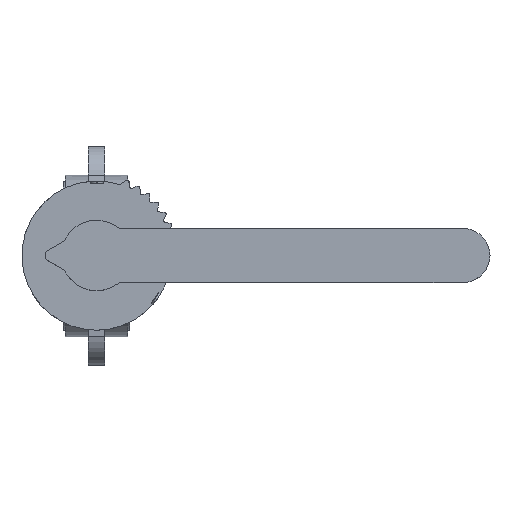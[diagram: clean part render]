
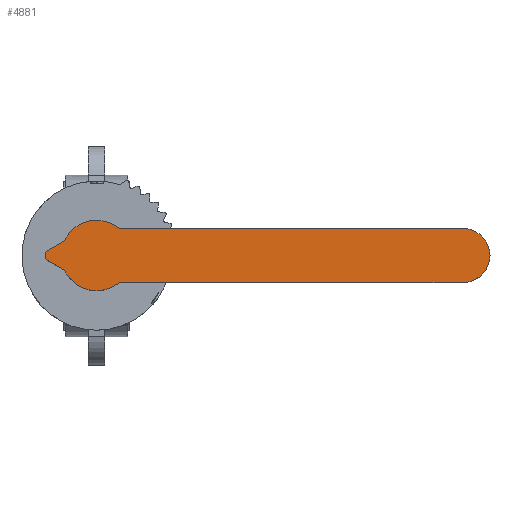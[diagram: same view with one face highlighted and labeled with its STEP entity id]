
A CAD part, top view. The second image highlights one B-rep face of the part: STEP entity #4881.
In plain terms, the highlighted planar face has unit normal (0, 0, 1).
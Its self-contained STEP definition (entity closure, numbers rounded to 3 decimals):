
#4881=ADVANCED_FACE('',(#10031),#10033,.T.);
#10031=FACE_BOUND('',#10032,.T.);
#10032=EDGE_LOOP('',(#14195,#14196,#14197,#14198,#14199,#14200,#14201,#14202,#14203,
#14204,#14205));
#10033=PLANE('',#10034);
#10034=AXIS2_PLACEMENT_3D('',#10035,#10036,#10037);
#10035=CARTESIAN_POINT('',(-1.545,-4.755,135.));
#10036=DIRECTION('',(0.,0.,1.));
#10037=DIRECTION('',(0.951,-0.309,0.));
#14195=ORIENTED_EDGE('',*,*,#16523,.F.);
#14196=ORIENTED_EDGE('',*,*,#16524,.T.);
#14197=ORIENTED_EDGE('',*,*,#16415,.T.);
#14198=ORIENTED_EDGE('',*,*,#16414,.T.);
#14199=ORIENTED_EDGE('',*,*,#16525,.T.);
#14200=ORIENTED_EDGE('',*,*,#16526,.T.);
#14201=ORIENTED_EDGE('',*,*,#16527,.T.);
#14202=ORIENTED_EDGE('',*,*,#16528,.T.);
#14203=ORIENTED_EDGE('',*,*,#16529,.T.);
#14204=ORIENTED_EDGE('',*,*,#16410,.T.);
#14205=ORIENTED_EDGE('',*,*,#16510,.T.);
#16410=EDGE_CURVE('',#19357,#19355,#19358,.T.);
#16414=EDGE_CURVE('',#19365,#19363,#19366,.T.);
#16415=EDGE_CURVE('',#19367,#19365,#19368,.T.);
#16510=EDGE_CURVE('',#19355,#19552,#19555,.T.);
#16523=EDGE_CURVE('',#19579,#19552,#19580,.F.);
#16524=EDGE_CURVE('',#19579,#19367,#19581,.T.);
#16525=EDGE_CURVE('',#19363,#19582,#19583,.T.);
#16526=EDGE_CURVE('',#19582,#19584,#19585,.T.);
#16527=EDGE_CURVE('',#19584,#19586,#19587,.T.);
#16528=EDGE_CURVE('',#19586,#19588,#19589,.T.);
#16529=EDGE_CURVE('',#19588,#19357,#19590,.T.);
#19355=VERTEX_POINT('',#26770);
#19357=VERTEX_POINT('',#26774);
#19358=CIRCLE('',#26775,17.);
#19363=VERTEX_POINT('',#26788);
#19365=VERTEX_POINT('',#26792);
#19366=CIRCLE('',#26793,17.);
#19367=VERTEX_POINT('',#26797);
#19368=CIRCLE('',#26798,17.);
#19552=VERTEX_POINT('',#27234);
#19555=LINE('',#27239,#27240);
#19579=VERTEX_POINT('',#27289);
#19580=CIRCLE('',#27290,13.);
#19581=LINE('',#27294,#27295);
#19582=VERTEX_POINT('',#27297);
#19583=CIRCLE('',#27298,3.);
#19584=VERTEX_POINT('',#27302);
#19585=LINE('',#27303,#27304);
#19586=VERTEX_POINT('',#27306);
#19587=CIRCLE('',#27307,3.);
#19588=VERTEX_POINT('',#27311);
#19589=LINE('',#27312,#27313);
#19590=CIRCLE('',#27315,3.);
#26770=CARTESIAN_POINT('',(10.954,-13.,135.));
#26774=CARTESIAN_POINT('',(-15.113,-7.785,135.));
#26775=AXIS2_PLACEMENT_3D('',#26776,#26777,#26778);
#26776=CARTESIAN_POINT('',(0.,0.,135.));
#26777=DIRECTION('',(0.,0.,1.));
#26778=DIRECTION('',(-0.889,-0.458,0.));
#26788=CARTESIAN_POINT('',(-15.113,7.785,135.));
#26792=CARTESIAN_POINT('',(2.659,16.791,135.));
#26793=AXIS2_PLACEMENT_3D('',#26794,#26795,#26796);
#26794=CARTESIAN_POINT('',(0.,0.,135.));
#26795=DIRECTION('',(0.,0.,1.));
#26796=DIRECTION('',(0.156,0.988,0.));
#26797=CARTESIAN_POINT('',(10.954,13.,135.));
#26798=AXIS2_PLACEMENT_3D('',#26799,#26800,#26801);
#26799=CARTESIAN_POINT('',(0.,0.,135.));
#26800=DIRECTION('',(0.,0.,1.));
#26801=DIRECTION('',(0.644,0.765,0.));
#27234=CARTESIAN_POINT('',(177.,-13.,135.));
#27239=CARTESIAN_POINT('',(10.954,-13.,135.));
#27240=VECTOR('',#27241,1.);
#27241=DIRECTION('',(1.,0.,0.));
#27289=CARTESIAN_POINT('',(177.,13.,135.));
#27290=AXIS2_PLACEMENT_3D('',#27291,#27292,#27293);
#27291=CARTESIAN_POINT('',(177.,0.,135.));
#27292=DIRECTION('',(0.,0.,1.));
#27293=DIRECTION('',(0.,-1.,0.));
#27294=CARTESIAN_POINT('',(177.,13.,135.));
#27295=VECTOR('',#27296,1.);
#27296=DIRECTION('',(-1.,0.,0.));
#27297=CARTESIAN_POINT('',(-16.317,6.539,135.));
#27298=AXIS2_PLACEMENT_3D('',#27299,#27300,#27301);
#27299=CARTESIAN_POINT('',(-17.78,9.159,135.));
#27300=DIRECTION('',(0.,0.,-1.));
#27301=DIRECTION('',(0.889,-0.458,0.));
#27302=CARTESIAN_POINT('',(-23.338,2.619,135.));
#27303=CARTESIAN_POINT('',(-16.317,6.539,135.));
#27304=VECTOR('',#27305,1.);
#27305=DIRECTION('',(-0.873,-0.487,0.));
#27306=CARTESIAN_POINT('',(-23.338,-2.619,135.));
#27307=AXIS2_PLACEMENT_3D('',#27308,#27309,#27310);
#27308=CARTESIAN_POINT('',(-21.876,0.,135.));
#27309=DIRECTION('',(0.,0.,1.));
#27310=DIRECTION('',(-0.487,0.873,0.));
#27311=CARTESIAN_POINT('',(-16.317,-6.539,135.));
#27312=CARTESIAN_POINT('',(-23.338,-2.619,135.));
#27313=VECTOR('',#27314,1.);
#27314=DIRECTION('',(0.873,-0.487,0.));
#27315=AXIS2_PLACEMENT_3D('',#27316,#27317,#27318);
#27316=CARTESIAN_POINT('',(-17.78,-9.159,135.));
#27317=DIRECTION('',(0.,0.,-1.));
#27318=DIRECTION('',(0.487,0.873,0.));
